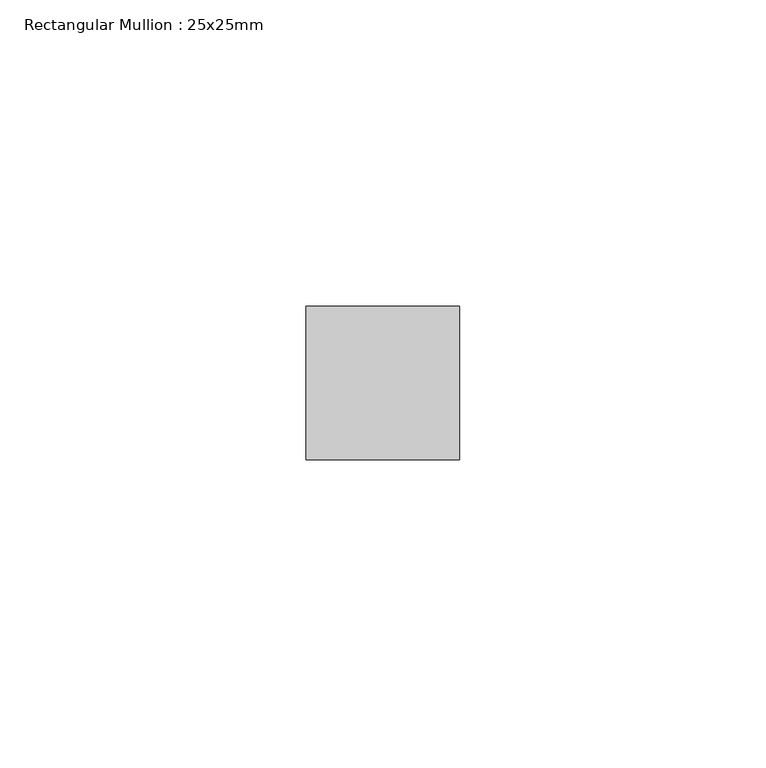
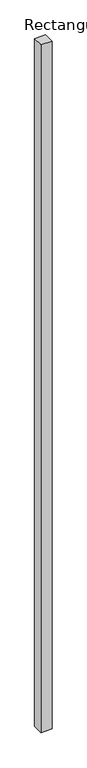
"""IFC4 building model written with IfcOpenShell, lengths in millimetres: member geometry, Rectangular Mullion : 25x25mm."""

from ifc_helpers import new_model, si_unit, frame, origin, place, context, project, spatial, polyline, outline, extrude, source, transform, mapped, element, save


def rectangular_mullion_25x25mm_0ea179df(model_context):
    return source(origin(), model_context, "Body", "SweptSolid", [
        extrude(outline(polyline([(0.0, 0.5), (0.0, -24.5), (-25.0, -24.5), (-25.0, 0.5), (0.0, 0.5)])), frame((0.0, 0.0, -1647.5), z_axis=(0.0, 0.0, 1.0), x_axis=(1.0, 0.0, 0.0)), (0.0, 0.0, 1.0), 1647.5),
    ])


if __name__ == "__main__":
    model = new_model("IFC4")
    model_context = context("Model", 3, world=origin())
    ifc_project = project(units=[si_unit("LENGTHUNIT", "METRE", prefix="MILLI")], contexts=[model_context])
    site = spatial("IfcSite", under=ifc_project)
    building = spatial("IfcBuilding", under=site)
    placement = place(None, origin())
    rectangular_mullion_25x25mm_shape = rectangular_mullion_25x25mm_0ea179df(model_context)
    element("IfcMember", 1, ObjectType="Rectangular Mullion : 25x25mm", at=placement, inside=building, context=model_context, shape_type="MappedRepresentation", body=[
        mapped(rectangular_mullion_25x25mm_shape, transform((0.0, 0.0, 0.0), x_axis=(1.0, 0.0, 0.0), y_axis=(0.0, 1.0, 0.0), z_axis=(0.0, 0.0, 1.0))),
    ])
    save(model, "model.ifc")
